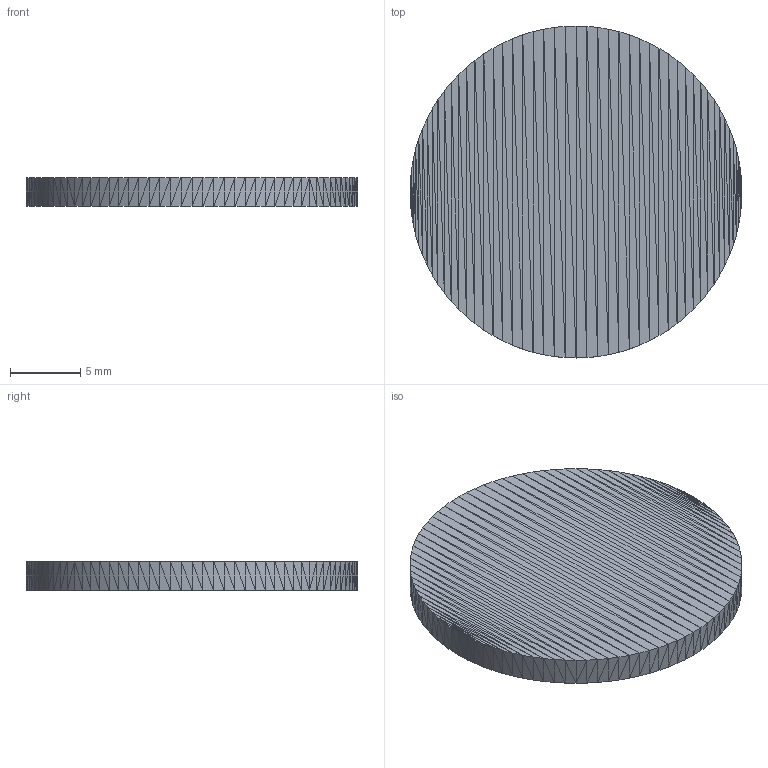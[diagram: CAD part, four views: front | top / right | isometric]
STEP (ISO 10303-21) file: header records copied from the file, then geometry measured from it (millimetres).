
FILE_DESCRIPTION(('BEAREE ear_pad - faceted solid, tessellated from the OpenSCAD model'),'2;1');
FILE_NAME('ear_pad.step','2026-08-05T18:55:26',('BEAREE'),(''),'tools/step_gen.js','OpenSCAD 2021.01','');
FILE_SCHEMA(('AUTOMOTIVE_DESIGN { 1 0 10303 214 1 1 1 1 }'));
Length unit declared in the file: millimetre
Products named in the file (1): ear_pad
Bounding box: 23.65 x 23.65 x 2 mm (x, y, z)
Volume: 878 mm3; surface area: 1026.5 mm2
Topology: 1 solids, 1 shells, 380 faces, 570 edges, 192 vertices
Faces by surface type: plane 380
Entity records: 6482 total; most frequent: DIRECTION 1332, ORIENTED_EDGE 1140, VECTOR 570, LINE 570, EDGE_CURVE 570, AXIS2_PLACEMENT_3D 381, EDGE_LOOP 380, FACE_OUTER_BOUND 380
